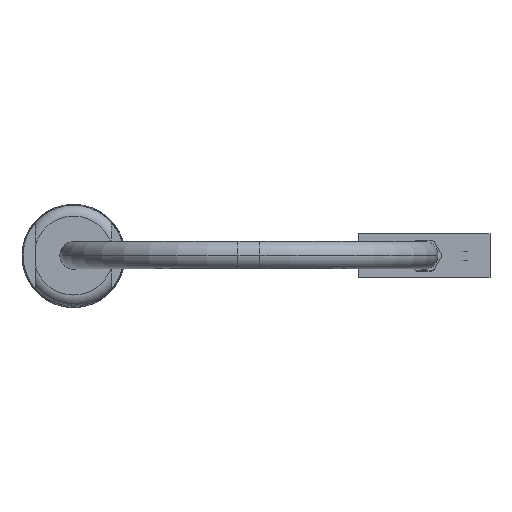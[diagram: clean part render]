
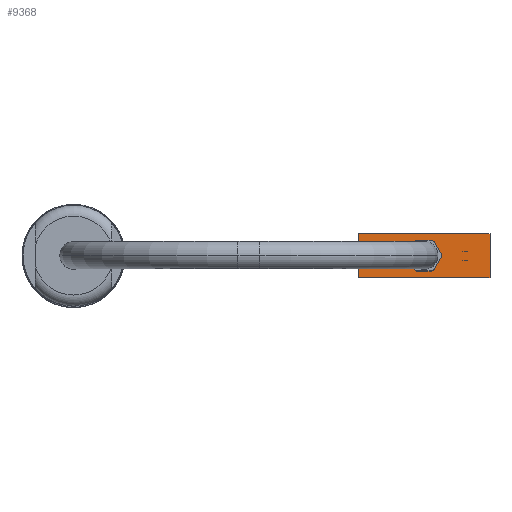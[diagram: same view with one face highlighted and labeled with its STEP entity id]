
A CAD part, top view. The second image highlights one B-rep face of the part: STEP entity #9368.
In plain terms, the highlighted planar face has unit normal (0, 0, 1).
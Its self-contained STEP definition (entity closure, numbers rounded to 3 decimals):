
#16=DIRECTION('',(1.,0.,0.));
#17=VECTOR('',#16,12.);
#18=CARTESIAN_POINT('',(-6.,-2.,0.));
#19=LINE('',#18,#17);
#110=DIRECTION('',(0.,1.,0.));
#111=VECTOR('',#110,4.);
#112=CARTESIAN_POINT('',(-6.,-2.,0.));
#113=LINE('',#112,#111);
#117=DIRECTION('',(1.,0.,0.));
#118=VECTOR('',#117,1.27);
#119=CARTESIAN_POINT('',(-0.635,-1.4,0.));
#120=LINE('',#119,#118);
#124=DIRECTION('',(0.5,0.866,0.));
#125=VECTOR('',#124,1.27);
#126=CARTESIAN_POINT('',(0.895,-1.25,0.));
#127=LINE('',#126,#125);
#131=DIRECTION('',(-0.5,0.866,0.));
#132=VECTOR('',#131,1.27);
#133=CARTESIAN_POINT('',(1.53,0.15,0.));
#134=LINE('',#133,#132);
#138=DIRECTION('',(-1.,0.,0.));
#139=VECTOR('',#138,1.27);
#140=CARTESIAN_POINT('',(0.635,1.4,0.));
#141=LINE('',#140,#139);
#145=DIRECTION('',(-0.5,-0.866,0.));
#146=VECTOR('',#145,1.27);
#147=CARTESIAN_POINT('',(-0.895,1.25,0.));
#148=LINE('',#147,#146);
#152=DIRECTION('',(0.5,-0.866,0.));
#153=VECTOR('',#152,1.27);
#154=CARTESIAN_POINT('',(-1.53,-0.15,0.));
#155=LINE('',#154,#153);
#194=DIRECTION('',(0.,1.,0.));
#195=VECTOR('',#194,4.);
#196=CARTESIAN_POINT('',(6.,-2.,0.));
#197=LINE('',#196,#195);
#2558=DIRECTION('',(1.,0.,0.));
#2559=VECTOR('',#2558,12.);
#2560=CARTESIAN_POINT('',(-6.,2.,0.));
#2561=LINE('',#2560,#2559);
#7376=CARTESIAN_POINT('',(0.635,-1.1,0.));
#7377=DIRECTION('',(0.,0.,-1.));
#7378=DIRECTION('',(0.866,-0.5,0.));
#7379=AXIS2_PLACEMENT_3D('',#7376,#7377,#7378);
#7490=CARTESIAN_POINT('',(1.27,0.,0.));
#7491=DIRECTION('',(0.,0.,-1.));
#7492=DIRECTION('',(0.866,0.5,0.));
#7493=AXIS2_PLACEMENT_3D('',#7490,#7491,#7492);
#7526=CARTESIAN_POINT('',(0.635,1.1,0.));
#7527=DIRECTION('',(0.,0.,-1.));
#7528=DIRECTION('',(0.,1.,0.));
#7529=AXIS2_PLACEMENT_3D('',#7526,#7527,#7528);
#7548=CARTESIAN_POINT('',(-0.635,1.1,0.));
#7549=DIRECTION('',(0.,0.,-1.));
#7550=DIRECTION('',(-0.866,0.5,0.));
#7551=AXIS2_PLACEMENT_3D('',#7548,#7549,#7550);
#7570=CARTESIAN_POINT('',(-1.27,0.,0.));
#7571=DIRECTION('',(0.,0.,-1.));
#7572=DIRECTION('',(-0.866,-0.5,0.));
#7573=AXIS2_PLACEMENT_3D('',#7570,#7571,#7572);
#7592=CARTESIAN_POINT('',(-0.635,-1.1,0.));
#7593=DIRECTION('',(0.,0.,-1.));
#7594=DIRECTION('',(0.,-1.,0.));
#7595=AXIS2_PLACEMENT_3D('',#7592,#7593,#7594);
#7814=CARTESIAN_POINT('',(-6.,-2.,0.));
#7815=CARTESIAN_POINT('',(6.,-2.,0.));
#7816=VERTEX_POINT('',#7814);
#7817=VERTEX_POINT('',#7815);
#7822=CARTESIAN_POINT('',(-6.,2.,0.));
#7823=CARTESIAN_POINT('',(6.,2.,0.));
#7824=VERTEX_POINT('',#7822);
#7825=VERTEX_POINT('',#7823);
#7891=CARTESIAN_POINT('',(1.53,-0.15,0.));
#7893=VERTEX_POINT('',#7891);
#7896=CARTESIAN_POINT('',(1.53,0.15,0.));
#7897=VERTEX_POINT('',#7896);
#7899=CARTESIAN_POINT('',(0.635,-1.4,0.));
#7901=VERTEX_POINT('',#7899);
#7904=CARTESIAN_POINT('',(0.895,-1.25,0.));
#7905=VERTEX_POINT('',#7904);
#7907=CARTESIAN_POINT('',(-0.895,-1.25,0.));
#7909=VERTEX_POINT('',#7907);
#7912=CARTESIAN_POINT('',(-0.635,-1.4,0.));
#7913=VERTEX_POINT('',#7912);
#7915=CARTESIAN_POINT('',(-1.53,0.15,0.));
#7917=VERTEX_POINT('',#7915);
#7920=CARTESIAN_POINT('',(-1.53,-0.15,0.));
#7921=VERTEX_POINT('',#7920);
#7923=CARTESIAN_POINT('',(-0.635,1.4,0.));
#7925=VERTEX_POINT('',#7923);
#7928=CARTESIAN_POINT('',(-0.895,1.25,0.));
#7929=VERTEX_POINT('',#7928);
#7931=CARTESIAN_POINT('',(0.895,1.25,0.));
#7933=VERTEX_POINT('',#7931);
#7936=CARTESIAN_POINT('',(0.635,1.4,0.));
#7937=VERTEX_POINT('',#7936);
#9328=CARTESIAN_POINT('',(-6.,-2.,0.));
#9329=DIRECTION('',(0.,0.,1.));
#9330=DIRECTION('',(1.,0.,0.));
#9331=AXIS2_PLACEMENT_3D('',#9328,#9329,#9330);
#9332=PLANE('',#9331);
#9333=ORIENTED_EDGE('',*,*,#9287,.F.);
#9335=ORIENTED_EDGE('',*,*,#9334,.T.);
#9337=ORIENTED_EDGE('',*,*,#9336,.T.);
#9339=ORIENTED_EDGE('',*,*,#9338,.F.);
#9340=EDGE_LOOP('',(#9333,#9335,#9337,#9339));
#9341=FACE_OUTER_BOUND('',#9340,.F.);
#9343=ORIENTED_EDGE('',*,*,#9342,.T.);
#9345=ORIENTED_EDGE('',*,*,#9344,.F.);
#9347=ORIENTED_EDGE('',*,*,#9346,.T.);
#9349=ORIENTED_EDGE('',*,*,#9348,.F.);
#9351=ORIENTED_EDGE('',*,*,#9350,.T.);
#9353=ORIENTED_EDGE('',*,*,#9352,.F.);
#9355=ORIENTED_EDGE('',*,*,#9354,.T.);
#9357=ORIENTED_EDGE('',*,*,#9356,.F.);
#9359=ORIENTED_EDGE('',*,*,#9358,.T.);
#9361=ORIENTED_EDGE('',*,*,#9360,.F.);
#9363=ORIENTED_EDGE('',*,*,#9362,.T.);
#9365=ORIENTED_EDGE('',*,*,#9364,.F.);
#9366=EDGE_LOOP('',(#9343,#9345,#9347,#9349,#9351,#9353,#9355,#9357,#9359,#9361,
#9363,#9365));
#9367=FACE_BOUND('',#9366,.F.);
#9368=ADVANCED_FACE('',(#9341,#9367),#9332,.T.);
#7380=CIRCLE('',#7379,0.3);
#7494=CIRCLE('',#7493,0.3);
#7530=CIRCLE('',#7529,0.3);
#7552=CIRCLE('',#7551,0.3);
#7574=CIRCLE('',#7573,0.3);
#7596=CIRCLE('',#7595,0.3);
#9287=EDGE_CURVE('',#7816,#7817,#19,.T.);
#9334=EDGE_CURVE('',#7816,#7824,#113,.T.);
#9336=EDGE_CURVE('',#7824,#7825,#2561,.T.);
#9338=EDGE_CURVE('',#7817,#7825,#197,.T.);
#9342=EDGE_CURVE('',#7913,#7901,#120,.T.);
#9344=EDGE_CURVE('',#7905,#7901,#7380,.T.);
#9346=EDGE_CURVE('',#7905,#7893,#127,.T.);
#9348=EDGE_CURVE('',#7897,#7893,#7494,.T.);
#9350=EDGE_CURVE('',#7897,#7933,#134,.T.);
#9352=EDGE_CURVE('',#7937,#7933,#7530,.T.);
#9354=EDGE_CURVE('',#7937,#7925,#141,.T.);
#9356=EDGE_CURVE('',#7929,#7925,#7552,.T.);
#9358=EDGE_CURVE('',#7929,#7917,#148,.T.);
#9360=EDGE_CURVE('',#7921,#7917,#7574,.T.);
#9362=EDGE_CURVE('',#7921,#7909,#155,.T.);
#9364=EDGE_CURVE('',#7913,#7909,#7596,.T.);
